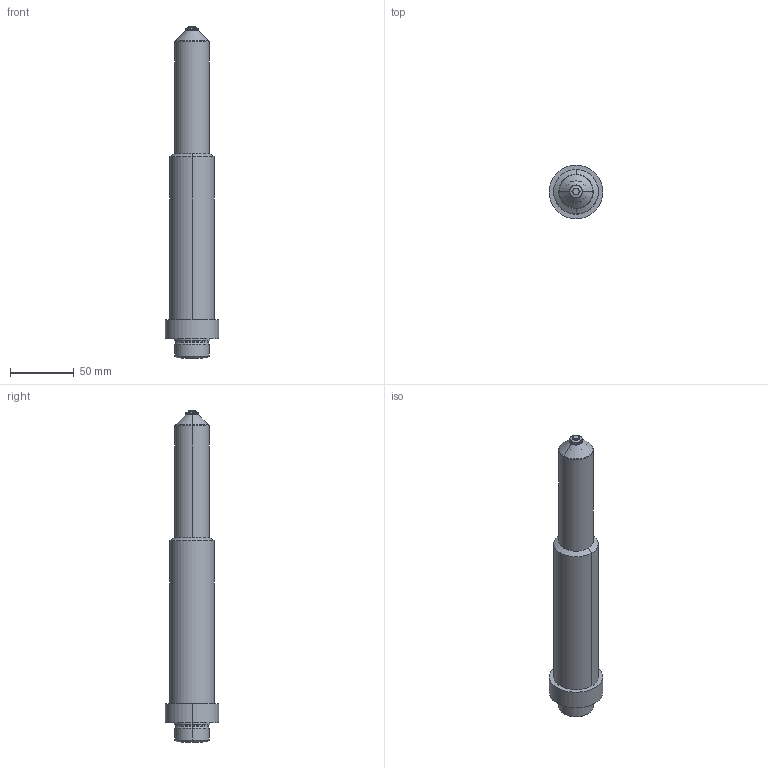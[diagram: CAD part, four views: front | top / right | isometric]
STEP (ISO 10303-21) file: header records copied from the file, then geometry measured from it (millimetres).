
FILE_DESCRIPTION (( 'STEP AP214' ), '1' );
FILE_NAME ('09EX12-03-245-VSM.step', '2023-04-19T08:36:40', ( '' ), ( '' ), 'SwSTEP 2.0', 'SolidWorks 2018', '' );
FILE_SCHEMA (( 'AUTOMOTIVE_DESIGN' ));
Length unit declared in the file: millimetre
Products named in the file (1): 09EX12-03-245-VSM
Bounding box: 42 x 42 x 260 mm (x, y, z)
Volume: 341237.5 mm3; surface area: 90147.9 mm2
Topology: 4 solids, 4 shells, 504 faces, 1299 edges, 805 vertices
Faces by surface type: cylinder 207, plane 156, torus 75, cone 54, bspline 6, sphere 6
Entity records: 25056 total; most frequent: CARTESIAN_POINT 7009, DIRECTION 2735, ORIENTED_EDGE 2590, EDGE_CURVE 1295, AXIS2_PLACEMENT_3D 1081, VERTEX_POINT 803, CIRCLE 582, LINE 573
